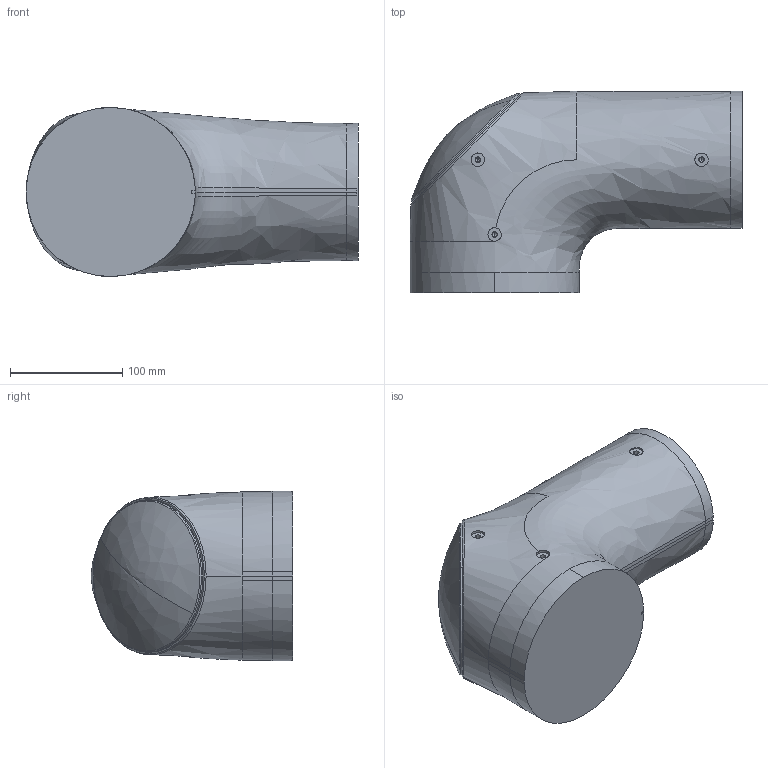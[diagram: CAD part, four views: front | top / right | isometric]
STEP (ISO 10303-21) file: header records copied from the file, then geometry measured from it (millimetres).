
FILE_DESCRIPTION (( 'STEP AP214' ), '1' );
FILE_NAME ('CRB1920_20kg-1670_OmniCore_rev00_Link3.step', '2026-03-06T03:42:36', ( '' ), ( '' ), 'SwSTEP 2.0', 'SolidWorks 2022', '' );
FILE_SCHEMA (( 'AUTOMOTIVE_DESIGN' ));
Length unit declared in the file: millimetre
Products named in the file (1): CRB1920_20kg-1670_OmniCore_rev00_Link3
Bounding box: 295.35 x 179.18 x 150.5 mm (x, y, z)
Volume: 4572032.2 mm3; surface area: 166768.7 mm2
Topology: 1 solids, 1 shells, 76 faces, 186 edges, 114 vertices
Faces by surface type: cylinder 28, plane 24, bspline 14, cone 8, torus 2
Entity records: 10477 total; most frequent: CARTESIAN_POINT 8802, ORIENTED_EDGE 356, DIRECTION 304, EDGE_CURVE 178, AXIS2_PLACEMENT_3D 117, VERTEX_POINT 114, EDGE_LOOP 86, FACE_OUTER_BOUND 76
